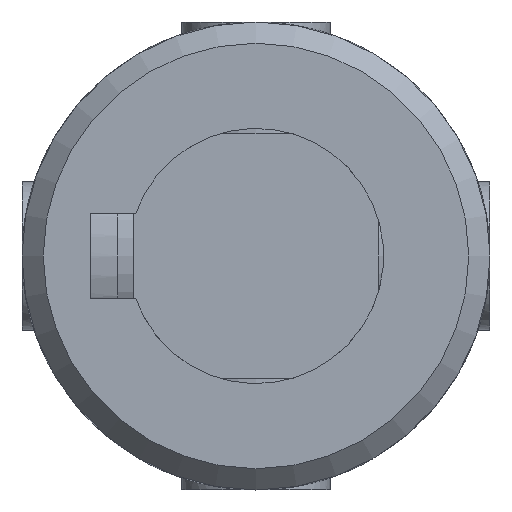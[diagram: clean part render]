
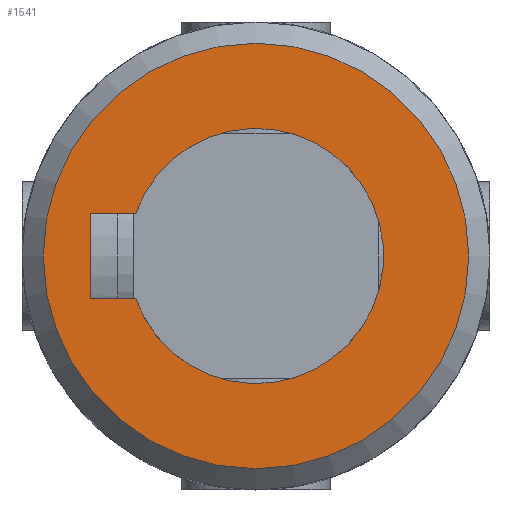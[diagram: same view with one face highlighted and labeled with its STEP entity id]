
A CAD part, front view. The second image highlights one B-rep face of the part: STEP entity #1541.
In plain terms, the highlighted planar face has unit normal (0, -1, 0).
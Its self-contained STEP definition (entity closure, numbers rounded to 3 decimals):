
#121=LINE('',#2983,#176);
#125=LINE('',#3055,#180);
#126=LINE('',#3058,#181);
#176=VECTOR('',#2027,2.143);
#180=VECTOR('',#2037,4.);
#181=VECTOR('',#2042,2.143);
#282=FACE_BOUND('',#521,.T.);
#393=FACE_OUTER_BOUND('',#520,.T.);
#520=EDGE_LOOP('',(#1314));
#521=EDGE_LOOP('',(#1315,#1316,#1317,#1318));
#599=CIRCLE('',#1689,6.);
#606=CIRCLE('',#1701,10.);
#725=VERTEX_POINT('',#2980);
#726=VERTEX_POINT('',#2982);
#730=VERTEX_POINT('',#3037);
#732=VERTEX_POINT('',#3053);
#738=VERTEX_POINT('',#3104);
#915=EDGE_CURVE('',#726,#725,#121,.T.);
#920=EDGE_CURVE('',#730,#726,#599,.T.);
#924=EDGE_CURVE('',#725,#732,#125,.T.);
#926=EDGE_CURVE('',#732,#730,#126,.T.);
#934=EDGE_CURVE('',#738,#738,#606,.T.);
#1314=ORIENTED_EDGE('',*,*,#934,.F.);
#1315=ORIENTED_EDGE('',*,*,#915,.T.);
#1316=ORIENTED_EDGE('',*,*,#924,.T.);
#1317=ORIENTED_EDGE('',*,*,#926,.T.);
#1318=ORIENTED_EDGE('',*,*,#920,.T.);
#1454=PLANE('',#1703);
#1541=ADVANCED_FACE('',(#393,#282),#1454,.F.);
#1689=AXIS2_PLACEMENT_3D('',#3038,#2031,#2032);
#1701=AXIS2_PLACEMENT_3D('',#3105,#2059,#2060);
#1703=AXIS2_PLACEMENT_3D('',#3281,#2067,#2068);
#2027=DIRECTION('',(0.,0.,-1.));
#2031=DIRECTION('center_axis',(0.,1.,0.));
#2032=DIRECTION('ref_axis',(-0.333,0.,0.943));
#2037=DIRECTION('',(-1.,0.,0.));
#2042=DIRECTION('',(0.,0.,1.));
#2059=DIRECTION('center_axis',(0.,1.,0.));
#2060=DIRECTION('ref_axis',(1.,0.,0.));
#2067=DIRECTION('center_axis',(0.,1.,0.));
#2068=DIRECTION('ref_axis',(0.,0.,1.));
#2980=CARTESIAN_POINT('',(2.,-36.5,-7.8));
#2982=CARTESIAN_POINT('',(2.,-36.5,-5.657));
#2983=CARTESIAN_POINT('',(2.,-36.5,-2.828));
#3037=CARTESIAN_POINT('',(-2.,-36.5,-5.657));
#3038=CARTESIAN_POINT('Origin',(0.,-36.5,0.));
#3053=CARTESIAN_POINT('',(-2.,-36.5,-7.8));
#3055=CARTESIAN_POINT('',(1.,-36.5,-7.8));
#3058=CARTESIAN_POINT('',(-2.,-36.5,-3.9));
#3104=CARTESIAN_POINT('',(-10.,-36.5,0.));
#3105=CARTESIAN_POINT('Origin',(0.,-36.5,0.));
#3281=CARTESIAN_POINT('Origin',(0.,-36.5,0.));
